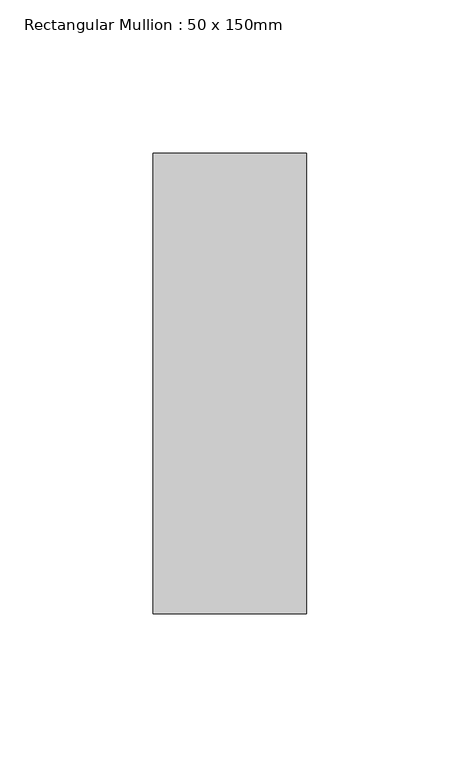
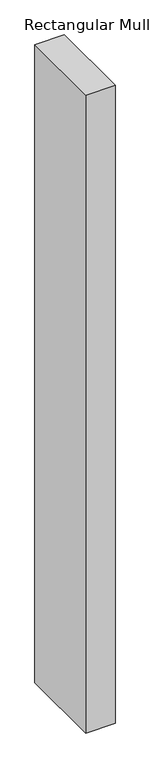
"""IFC4 building model written with IfcOpenShell, lengths in millimetres: member geometry, Rectangular Mullion : 50 x 150mm."""

from ifc_helpers import new_model, si_unit, frame, origin, place, context, project, spatial, polyline, outline, extrude, source, transform, mapped, element, save


def rectangular_mullion_50_x_150mm_4a524db7(model_context):
    return source(origin(), model_context, "Body", "SweptSolid", [
        extrude(outline(polyline([(0.0, 75.0), (0.0, -75.0), (-50.0, -75.0), (-50.0, 75.0), (0.0, 75.0)])), frame((0.0, 0.0, -1149.8468786), z_axis=(0.0, 0.0, 1.0), x_axis=(1.0, 0.0, 0.0)), (0.0, 0.0, 1.0), 1149.8468786),
    ])


if __name__ == "__main__":
    model = new_model("IFC4")
    model_context = context("Model", 3, world=origin())
    ifc_project = project(units=[si_unit("LENGTHUNIT", "METRE", prefix="MILLI")], contexts=[model_context])
    site = spatial("IfcSite", under=ifc_project)
    building = spatial("IfcBuilding", under=site)
    placement = place(None, origin())
    rectangular_mullion_50_x_150mm_shape = rectangular_mullion_50_x_150mm_4a524db7(model_context)
    element("IfcMember", 1, ObjectType="Rectangular Mullion : 50 x 150mm", at=placement, inside=building, context=model_context, shape_type="MappedRepresentation", body=[
        mapped(rectangular_mullion_50_x_150mm_shape, transform((0.0, 0.0, 0.0), x_axis=(1.0, 0.0, 0.0), y_axis=(0.0, 1.0, 0.0), z_axis=(0.0, 0.0, 1.0))),
    ])
    save(model, "model.ifc")
